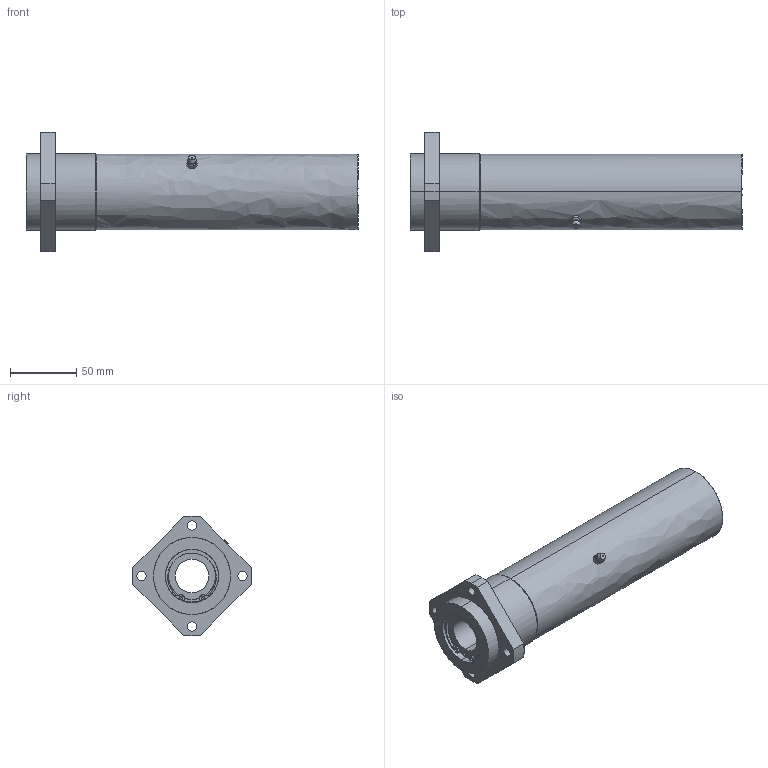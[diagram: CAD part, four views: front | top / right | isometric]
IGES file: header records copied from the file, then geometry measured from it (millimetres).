
Global section: file name: No Iges File Name specified; native system: AutoDesk Inventor R10; preprocessor: AutoDesk Inventor Iges Exporter R10; author: No Author specified; organization: No Organization specified; date: 20101214.141247; units: millimetre
Bounding box: 250 x 89.99 x 90 mm (x, y, z)
Surface area: 82386.2 mm2 (no closed solid volume)
Topology: 0 solids, 0 shells, 162 faces, 1144 edges, 1142 vertices
Faces by surface type: bspline 162
